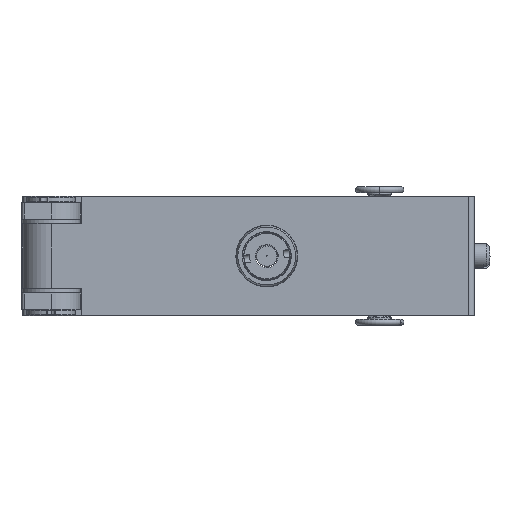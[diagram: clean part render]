
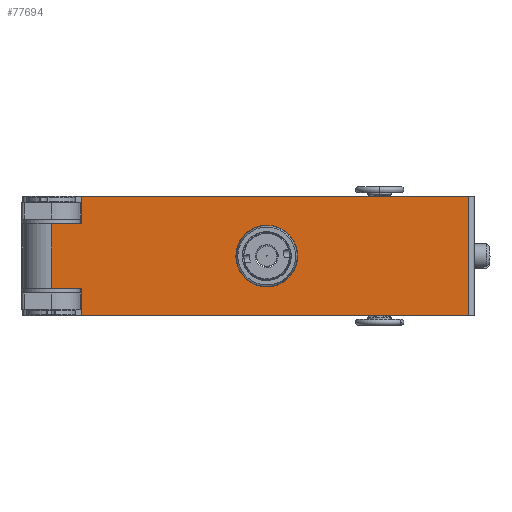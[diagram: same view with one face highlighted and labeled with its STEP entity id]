
A CAD part, front view. The second image highlights one B-rep face of the part: STEP entity #77694.
In plain terms, the highlighted planar face has unit normal (0.001, -1, 0).
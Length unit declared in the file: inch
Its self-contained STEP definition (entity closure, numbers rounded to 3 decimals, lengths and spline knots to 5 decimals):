
#2763 = PLANE ( 'NONE',  #89218 ) ;
#4496 = EDGE_CURVE ( 'NONE', #16396, #32550, #49844, .T. ) ;
#5773 = EDGE_CURVE ( 'NONE', #5879, #46068, #17175, .T. ) ;
#5879 = VERTEX_POINT ( 'NONE', #22765 ) ;
#5961 = DIRECTION ( 'NONE',  ( -1., -0.001, 0. ) ) ;
#6185 = VERTEX_POINT ( 'NONE', #50359 ) ;
#6815 = CARTESIAN_POINT ( 'NONE',  ( -1.60796, 3.95755, 0.20786 ) ) ;
#7060 = EDGE_CURVE ( 'NONE', #21056, #46068, #63026, .T. ) ;
#7326 = VECTOR ( 'NONE', #5961, 39.37008 ) ;
#7576 = EDGE_CURVE ( 'NONE', #22806, #6185, #12900, .T. ) ;
#10620 = CIRCLE ( 'NONE', #75708, 0.19882 ) ;
#10659 = EDGE_CURVE ( 'NONE', #49752, #21056, #19344, .T. ) ;
#11495 = DIRECTION ( 'NONE',  ( 0., 0., -1. ) ) ;
#12900 = LINE ( 'NONE', #41156, #7326 ) ;
#16396 = VERTEX_POINT ( 'NONE', #38861 ) ;
#17175 = LINE ( 'NONE', #87125, #86530 ) ;
#19226 = CARTESIAN_POINT ( 'NONE',  ( 0.8861, 3.95924, 0.38386 ) ) ;
#19344 = LINE ( 'NONE', #33262, #89007 ) ;
#19691 = DIRECTION ( 'NONE',  ( 0., 0., 1. ) ) ;
#19948 = ORIENTED_EDGE ( 'NONE', *, *, #61441, .T. ) ;
#21056 = VERTEX_POINT ( 'NONE', #85029 ) ;
#22141 = VECTOR ( 'NONE', #56110, 39.37008 ) ;
#22614 = VECTOR ( 'NONE', #19691, 39.37008 ) ;
#22765 = CARTESIAN_POINT ( 'NONE',  ( 0.8861, 3.95924, -0.38386 ) ) ;
#22806 = VERTEX_POINT ( 'NONE', #6815 ) ;
#24487 = CARTESIAN_POINT ( 'NONE',  ( -1.80107, 3.95742, -0.20786 ) ) ;
#24493 = DIRECTION ( 'NONE',  ( 0., 0., -1. ) ) ;
#25604 = DIRECTION ( 'NONE',  ( 0., 0., -1. ) ) ;
#26972 = CARTESIAN_POINT ( 'NONE',  ( -0.41311, 3.95836, -0.19882 ) ) ;
#27831 = CARTESIAN_POINT ( 'NONE',  ( -1.60796, 3.95755, 0. ) ) ;
#28594 = ORIENTED_EDGE ( 'NONE', *, *, #4496, .F. ) ;
#28690 = DIRECTION ( 'NONE',  ( -0.001, 1., 0. ) ) ;
#32052 = ORIENTED_EDGE ( 'NONE', *, *, #5773, .F. ) ;
#32550 = VERTEX_POINT ( 'NONE', #85141 ) ;
#33262 = CARTESIAN_POINT ( 'NONE',  ( -0.17689, 3.95852, -0.20786 ) ) ;
#33963 = VECTOR ( 'NONE', #50664, 39.37008 ) ;
#34766 = DIRECTION ( 'NONE',  ( 0., 0., -1. ) ) ;
#35034 = DIRECTION ( 'NONE',  ( 1., 0.001, 0. ) ) ;
#36849 = CARTESIAN_POINT ( 'NONE',  ( -1.98315, 3.9573, 0.38386 ) ) ;
#37922 = FACE_BOUND ( 'NONE', #71916, .T. ) ;
#38861 = CARTESIAN_POINT ( 'NONE',  ( -1.60796, 3.95755, 0.38386 ) ) ;
#39112 = CARTESIAN_POINT ( 'NONE',  ( -1.60796, 3.95755, -0.38386 ) ) ;
#39754 = DIRECTION ( 'NONE',  ( 0.001, -1., 0. ) ) ;
#41156 = CARTESIAN_POINT ( 'NONE',  ( -0.17689, 3.95852, 0.20786 ) ) ;
#42898 = CARTESIAN_POINT ( 'NONE',  ( -0.41311, 3.95836, 0.19882 ) ) ;
#46068 = VERTEX_POINT ( 'NONE', #39112 ) ;
#47529 = ORIENTED_EDGE ( 'NONE', *, *, #7060, .T. ) ;
#47764 = DIRECTION ( 'NONE',  ( -0.001, 1., 0. ) ) ;
#48373 = LINE ( 'NONE', #19226, #22614 ) ;
#49744 = LINE ( 'NONE', #63189, #33963 ) ;
#49752 = VERTEX_POINT ( 'NONE', #52440 ) ;
#49844 = LINE ( 'NONE', #36849, #76100 ) ;
#50359 = CARTESIAN_POINT ( 'NONE',  ( -1.80107, 3.95742, 0.20786 ) ) ;
#50664 = DIRECTION ( 'NONE',  ( 0., 0., 1. ) ) ;
#51011 = DIRECTION ( 'NONE',  ( -1., -0.001, 0. ) ) ;
#51045 = ORIENTED_EDGE ( 'NONE', *, *, #90180, .T. ) ;
#52440 = CARTESIAN_POINT ( 'NONE',  ( -1.80107, 3.95742, -0.20786 ) ) ;
#52454 = EDGE_CURVE ( 'NONE', #22806, #16396, #49744, .T. ) ;
#54745 = ORIENTED_EDGE ( 'NONE', *, *, #10659, .T. ) ;
#56110 = DIRECTION ( 'NONE',  ( 0., 0., -1. ) ) ;
#59472 = ORIENTED_EDGE ( 'NONE', *, *, #7576, .T. ) ;
#60615 = CARTESIAN_POINT ( 'NONE',  ( -0.17689, 3.95852, 0. ) ) ;
#61441 = EDGE_CURVE ( 'NONE', #6185, #49752, #80506, .T. ) ;
#63021 = CARTESIAN_POINT ( 'NONE',  ( -0.41311, 3.95836, 0. ) ) ;
#63026 = LINE ( 'NONE', #27831, #22141 ) ;
#63189 = CARTESIAN_POINT ( 'NONE',  ( -1.60796, 3.95755, 0. ) ) ;
#63931 = CIRCLE ( 'NONE', #75759, 0.19882 ) ;
#64858 = VERTEX_POINT ( 'NONE', #26972 ) ;
#65306 = VERTEX_POINT ( 'NONE', #42898 ) ;
#66176 = FACE_OUTER_BOUND ( 'NONE', #76067, .T. ) ;
#67474 = ORIENTED_EDGE ( 'NONE', *, *, #72517, .T. ) ;
#68207 = ORIENTED_EDGE ( 'NONE', *, *, #52454, .F. ) ;
#71916 = EDGE_LOOP ( 'NONE', ( #51045, #67474 ) ) ;
#72517 = EDGE_CURVE ( 'NONE', #64858, #65306, #63931, .T. ) ;
#75708 = AXIS2_PLACEMENT_3D ( 'NONE', #84721, #28690, #25604 ) ;
#75759 = AXIS2_PLACEMENT_3D ( 'NONE', #63021, #47764, #34766 ) ;
#76067 = EDGE_LOOP ( 'NONE', ( #59472, #19948, #54745, #47529, #32052, #88393, #28594, #68207 ) ) ;
#76100 = VECTOR ( 'NONE', #35034, 39.37008 ) ;
#77694 = ADVANCED_FACE ( 'NONE', ( #37922, #66176 ), #2763, .T. ) ;
#80506 = LINE ( 'NONE', #24487, #88655 ) ;
#83480 = EDGE_CURVE ( 'NONE', #5879, #32550, #48373, .T. ) ;
#84721 = CARTESIAN_POINT ( 'NONE',  ( -0.41311, 3.95836, 0. ) ) ;
#85029 = CARTESIAN_POINT ( 'NONE',  ( -1.60796, 3.95755, -0.20786 ) ) ;
#85141 = CARTESIAN_POINT ( 'NONE',  ( 0.8861, 3.95924, 0.38386 ) ) ;
#86530 = VECTOR ( 'NONE', #51011, 39.37008 ) ;
#87125 = CARTESIAN_POINT ( 'NONE',  ( -1.98315, 3.9573, -0.38386 ) ) ;
#88393 = ORIENTED_EDGE ( 'NONE', *, *, #83480, .T. ) ;
#88655 = VECTOR ( 'NONE', #11495, 39.37008 ) ;
#89007 = VECTOR ( 'NONE', #89757, 39.37008 ) ;
#89218 = AXIS2_PLACEMENT_3D ( 'NONE', #60615, #39754, #24493 ) ;
#89757 = DIRECTION ( 'NONE',  ( 1., 0.001, 0. ) ) ;
#90180 = EDGE_CURVE ( 'NONE', #65306, #64858, #10620, .T. ) ;
